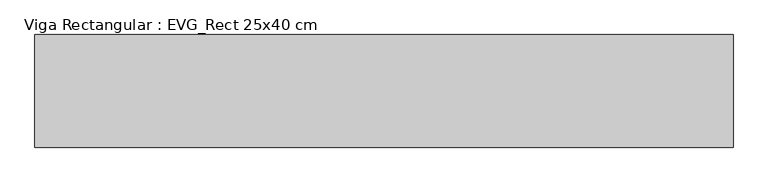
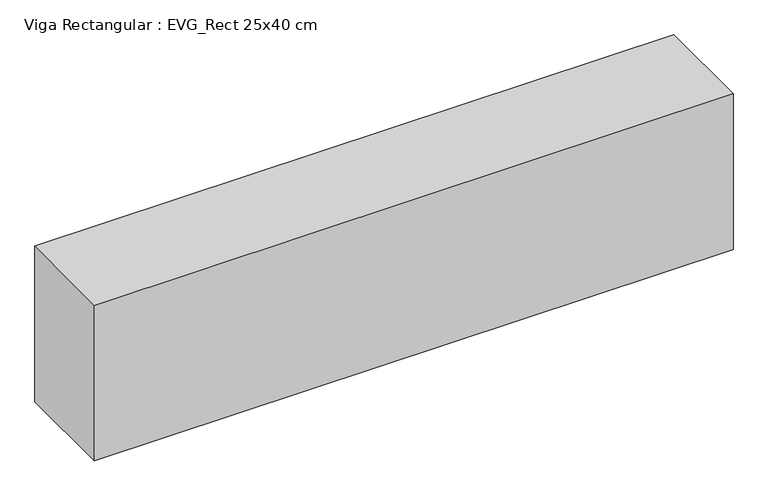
"""IFC4 building model written with IfcOpenShell, lengths in millimetres: beam geometry, Viga Rectangular : EVG_Rect 25x40 cm."""

from ifc_helpers import new_model, si_unit, frame, origin, place, context, project, spatial, polyline, outline, extrude, source, transform, mapped, element, save


def viga_rectangular_evg_rect_25x40_cm_a6a9dfc2(model_context):
    return source(origin(), model_context, "Body", "SweptSolid", [
        extrude(outline(polyline([(872.5, 125.0), (872.5, -125.0), (-677.5, -125.0), (-677.5, 125.0), (872.5, 125.0)])), frame((0.0, 0.0, -400.0), z_axis=(0.0, 0.0, 1.0), x_axis=(1.0, 0.0, 0.0)), (0.0, 0.0, 1.0), 400.0),
    ])


if __name__ == "__main__":
    model = new_model("IFC4")
    model_context = context("Model", 3, world=origin())
    ifc_project = project(units=[si_unit("LENGTHUNIT", "METRE", prefix="MILLI")], contexts=[model_context])
    site = spatial("IfcSite", under=ifc_project)
    building = spatial("IfcBuilding", under=site)
    placement = place(None, origin())
    viga_rectangular_evg_rect_25x40_cm_shape = viga_rectangular_evg_rect_25x40_cm_a6a9dfc2(model_context)
    element("IfcBeam", 1, ObjectType="Viga Rectangular : EVG_Rect 25x40 cm", at=placement, inside=building, context=model_context, shape_type="MappedRepresentation", body=[
        mapped(viga_rectangular_evg_rect_25x40_cm_shape, transform((0.0, 0.0, 0.0), x_axis=(1.0, 0.0, 0.0), y_axis=(0.0, 1.0, 0.0), z_axis=(0.0, 0.0, 1.0))),
    ])
    save(model, "model.ifc")
